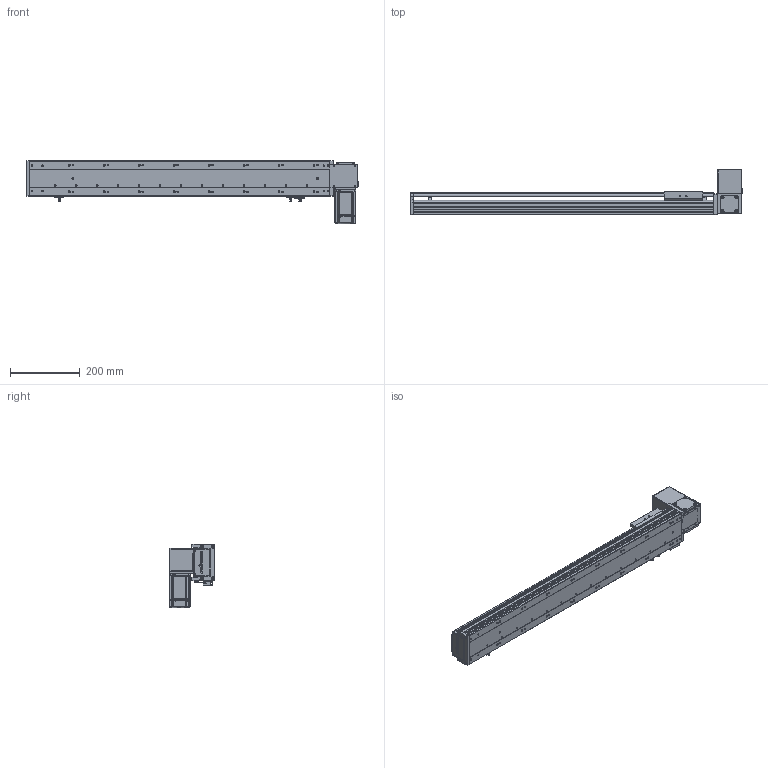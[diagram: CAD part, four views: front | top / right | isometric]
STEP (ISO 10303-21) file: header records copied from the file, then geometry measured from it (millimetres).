
FILE_DESCRIPTION (( 'STEP AP203' ), '1' );
FILE_NAME ('RY100-T-300-UL.SLDASM_650.step', '2024-04-25T08:39:33', ( '盈信电脑' ), ( '东莞市道滘镇水果街19号' ), 'SwSTEP 2.0', 'SolidWorks 2016', '' );
FILE_SCHEMA (( 'CONFIG_CONTROL_DESIGN' ));
Length unit declared in the file: millimetre
Products named in the file (15): RY100-T-300-RK倰第菁釱_650; RY100-T-300-UL.SLDASM_650; RY100-T粣創揤踡裔; 1; RY100-T左右折电机安装板; RY100-T肮祭謫臏賑輸; RY100-T肮祭謫翋盓傅釱; 滅袉蝶18-10; RY100-T翋肮祭謫裔啣; 覜茼ん672; RY100綴裔啣; RY100-T翋肮祭謫裔啣2; RY80-T肮祭謫奻殏俋欶; RY100俋离覜茼え; RY100-T-300-RK倰第奻裔_650
Assembly tree (17 placements, depth 2):
  RY100-T-300-UL.SLDASM_650
    RY100-T-300-RK倰第菁釱_650
    RY100-T-300-RK倰第奻裔_650
    RY100-T肮祭謫臏賑輸
    RY100綴裔啣
    覜茼ん672  x3
    RY100俋离覜茼え
    RY100-T肮祭謫翋盓傅釱
    滅袉蝶18-10  x2
    RY100-T翋肮祭謫裔啣2
    RY100-T翋肮祭謫裔啣
    1
    RY100-T左右折电机安装板
    RY80-T肮祭謫奻殏俋欶
    RY100-T粣創揤踡裔
Bounding box: 950 x 130.5 x 182.5 mm (x, y, z)
Volume: 2065658.4 mm3; surface area: 833885.1 mm2
Topology: 17 solids, 17 shells, 2211 faces, 6150 edges, 3994 vertices
Faces by surface type: plane 1207, cylinder 793, cone 133, bspline 78
Entity records: 71276 total; most frequent: CARTESIAN_POINT 17255, ORIENTED_EDGE 11132, DIRECTION 10580, EDGE_CURVE 5566, VERTEX_POINT 3662, LINE 3604, VECTOR 3604, AXIS2_PLACEMENT_3D 3488
